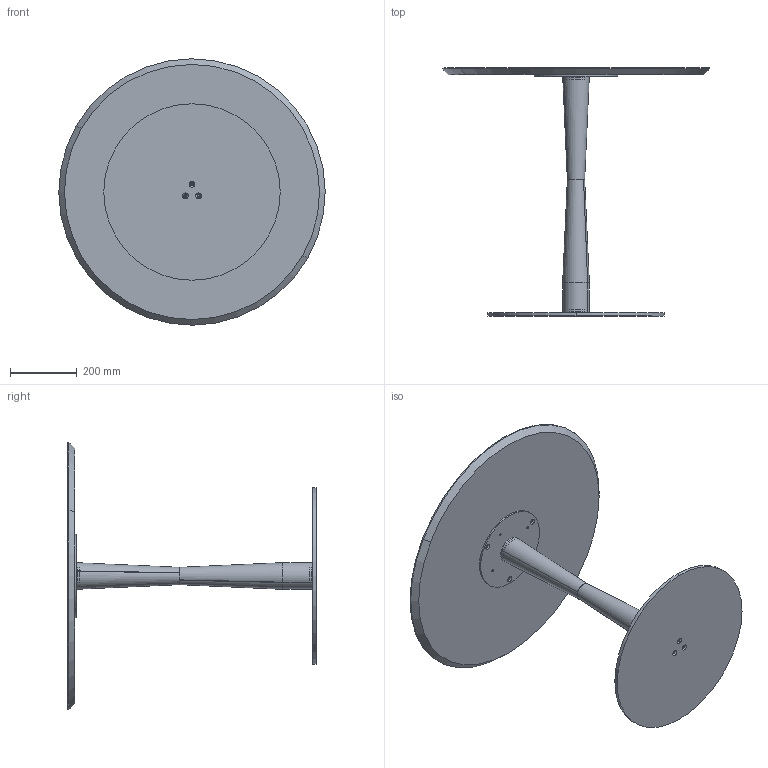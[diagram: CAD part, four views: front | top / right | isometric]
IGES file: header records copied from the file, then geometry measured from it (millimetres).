
Start section: SolidWorks IGES file using analytic representation for surfaces
Global section: file name: Y:\eforma\TECNICO\SOLIDWORKS\E-FORMA\5-TAVOLINI BISTRO\FILÚ\02 parts\FI20W.IGS; native system: SolidWorks 2022; preprocessor: SolidWorks 2022; author: eforma.tech; date: 240808.095939; units: millimetre
Bounding box: 800 x 745 x 800 mm (x, y, z)
Volume: 12473514.1 mm3; surface area: 1907088.6 mm2
Topology: 7 solids, 7 shells, 120 faces, 278 edges, 168 vertices
Faces by surface type: revolution 106, plane 14
